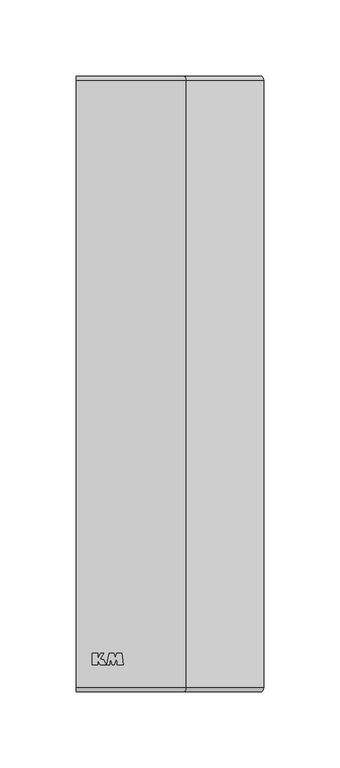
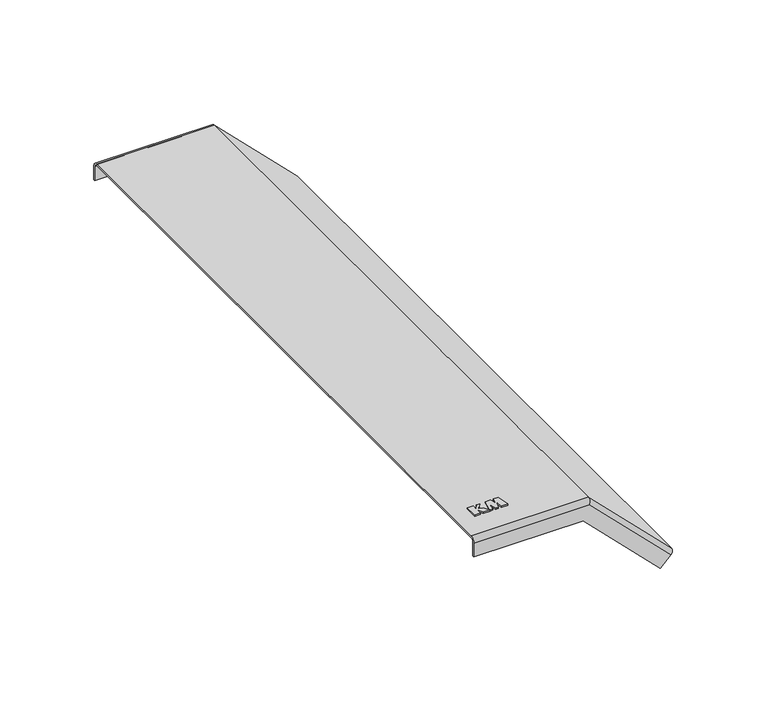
"""IFC4 building model written with IfcOpenShell, lengths in millimetres: cable carrier fitting geometry, КМ Профиль Крышка внешнего вертикального угла KVL45 : Крышка вертикального внешнего угла 45°."""

from ifc_helpers import new_model, si_unit, frame, origin, place, context, project, spatial, polyline, circle_curve, ellipse_curve, outline, extrude, source, transform, mapped, element, save
from ifc_brep_helpers import plane_surface, cylinder_surface, revolved_surface, advanced_brep


def cable_carrier_fitting_b93f2783(model_context):
    return source(origin(), model_context, "Body", "SolidModel", [
        extrude(outline(polyline([(10.7611219, -176.986157), (14.2683808, -176.986157), (14.2683808, -180.564509), (16.1710243, -176.986157), (18.296989, -176.986157), (15.8305045, -180.5086619), (18.0722556, -181.194034), (19.9395647, -184.737421), (16.0411533, -184.737421), (14.3369488, -181.5720802), (14.3369488, -184.737421), (10.7611219, -184.737421), (10.7611219, -176.986157)])), frame((0.0, 0.0, 3.0), z_axis=(0.0, 0.0, 1.0), x_axis=(1.0, 0.0, 0.0)), (0.0, 0.0, 1.0), 0.8),
        extrude(outline(polyline([(22.0037241, -184.737421), (20.1056605, -184.737421), (21.9259411, -176.9647569), (24.9566696, -176.9647569), (25.7231703, -180.0390232), (26.7444777, -176.9623682), (29.9384326, -176.9623682), (31.1299301, -184.7429915), (27.2274895, -184.7429915), (26.7499968, -180.0541919), (25.2699283, -184.7434681), (23.7954176, -184.7434681), (22.3873988, -180.0696135), (22.0037241, -184.737421)])), frame((0.0, 0.0, 3.0), z_axis=(0.0, 0.0, 1.0), x_axis=(1.0, 0.0, 0.0)), (0.0, 0.0, 1.0), 0.8),
        advanced_brep(
        [(0.0, -199.5, 3.0), (0.0, 199.5, 3.0), (0.0, 202.5, 0.0), (0.0, 202.5, -9.0), (0.0, 201.5, -9.0), (0.0, 201.5, 0.0), (0.0, 199.5, 2.0), (0.0, -199.5, 2.0), (0.0, -201.5, 0.0), (0.0, -201.5, -9.0), (0.0, -202.5, -9.0), (0.0, -202.5, 0.0), (72.2426407, -199.5, 3.0), (72.2426407, 199.5, 3.0), (71.0, 202.5, 0.0), (121.2045815, 202.5, -50.2045815), (114.8406204, 202.5, -56.5685425), (67.2720779, 202.5, -9.0), (67.2720779, 201.5, -9.0), (114.8406204, 201.5, -56.5685425), (121.2045815, 201.5, -50.2045815), (71.0, 201.5, 0.0), (71.8284271, 199.5, 2.0), (71.8284271, -199.5, 2.0), (71.0, -201.5, 0.0), (121.2045815, -201.5, -50.2045815), (114.8406204, -201.5, -56.5685425), (67.2720779, -201.5, -9.0), (67.2720779, -202.5, -9.0), (114.8406204, -202.5, -56.5685425), (121.2045815, -202.5, -50.2045815), (71.0, -202.5, 0.0), (123.3259018, -199.5, -48.0832611), (122.618795, -199.5, -48.7903679), (122.618795, 199.5, -48.7903679), (123.3259018, 199.5, -48.0832611)],
        [
            (0, 1),
            (1, 2, circle_curve(frame((0.0, 199.5, 0.0), z_axis=(-1.0, 0.0, 0.0), x_axis=(0.0, 0.0, 1.0)), 3.0)),
            (2, 3),
            (3, 4),
            (4, 5),
            (5, 6, circle_curve(frame((0.0, 199.5, 0.0), z_axis=(1.0, 0.0, 0.0), x_axis=(0.0, 0.0, 1.0)), 2.0)),
            (6, 7),
            (7, 8, circle_curve(frame((0.0, -199.5, 0.0), z_axis=(1.0, 0.0, 0.0), x_axis=(0.0, 0.0, 1.0)), 2.0)),
            (8, 9),
            (9, 10),
            (10, 11),
            (11, 0, circle_curve(frame((0.0, -199.5, 0.0), z_axis=(-1.0, 0.0, 0.0), x_axis=(0.0, 0.0, 1.0)), 3.0)),
            (0, 12),
            (12, 13),
            (13, 1),
            (13, 14, ellipse_curve(frame((71.0, 199.5, 0.0), z_axis=(-0.9238795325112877, 0.0, 0.38268343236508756), x_axis=(-0.38268343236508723, 0.0, -0.923879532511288)), 3.2471766, 3.0)),
            (14, 2),
            (14, 15),
            (15, 16),
            (16, 17),
            (17, 3),
            (17, 18),
            (18, 4),
            (18, 19),
            (19, 20),
            (20, 21),
            (21, 5),
            (21, 22, ellipse_curve(frame((71.0, 199.5, 0.0), z_axis=(0.9238795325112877, 0.0, -0.38268343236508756), x_axis=(0.38268343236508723, 0.0, 0.923879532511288)), 2.1647844, 2.0)),
            (22, 6),
            (22, 23),
            (23, 7),
            (23, 24, ellipse_curve(frame((71.0, -199.5, 0.0), z_axis=(0.9238795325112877, 0.0, -0.38268343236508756), x_axis=(0.38268343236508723, 0.0, 0.923879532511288)), 2.1647844, 2.0)),
            (24, 8),
            (24, 25),
            (25, 26),
            (26, 27),
            (27, 9),
            (27, 28),
            (28, 10),
            (28, 29),
            (29, 30),
            (30, 31),
            (31, 11),
            (31, 12, ellipse_curve(frame((71.0, -199.5, 0.0), z_axis=(-0.9238795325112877, 0.0, 0.38268343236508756), x_axis=(-0.38268343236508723, 0.0, -0.923879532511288)), 3.2471766, 3.0)),
            (32, 30, circle_curve(frame((121.2045815, -199.5, -50.2045815), z_axis=(0.7071067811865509, 0.0, -0.7071067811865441), x_axis=(0.7071067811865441, 0.0, 0.7071067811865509)), 3.0)),
            (29, 26),
            (25, 33, circle_curve(frame((121.2045815, -199.5, -50.2045815), z_axis=(-0.7071067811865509, 0.0, 0.7071067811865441), x_axis=(0.7071067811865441, 0.0, 0.7071067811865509)), 2.0)),
            (33, 34),
            (34, 20, circle_curve(frame((121.2045815, 199.5, -50.2045815), z_axis=(-0.7071067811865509, 0.0, 0.7071067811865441), x_axis=(0.7071067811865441, 0.0, 0.7071067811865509)), 2.0)),
            (19, 16),
            (15, 35, circle_curve(frame((121.2045815, 199.5, -50.2045815), z_axis=(0.7071067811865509, 0.0, -0.7071067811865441), x_axis=(0.7071067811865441, 0.0, 0.7071067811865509)), 3.0)),
            (35, 32),
            (12, 32),
            (35, 13),
            (34, 22),
            (33, 23),
        ],
        [
            plane_surface(frame((0.0, 0.0, 0.0), z_axis=(-1.0, 0.0, 0.0), x_axis=(0.0, -1.0, 0.0))),
            plane_surface(frame((0.0, -199.5, 3.0), z_axis=(0.0, 0.0, 1.0), x_axis=(1.0, 0.0, 0.0))),
            cylinder_surface(frame((0.0, 199.5, 0.0), z_axis=(-1.0, 0.0, 0.0), x_axis=(0.0, 0.0, 1.0)), 3.0),
            plane_surface(frame((0.0, 202.5, 0.0), z_axis=(0.0, 1.0, 0.0), x_axis=(1.0, 0.0, 0.0))),
            plane_surface(frame((0.0, 202.5, -9.0), z_axis=(0.0, 0.0, -1.0), x_axis=(1.0, 0.0, 0.0))),
            plane_surface(frame((0.0, 201.5, -9.0), z_axis=(0.0, -1.0, 0.0), x_axis=(1.0, 0.0, 0.0))),
            revolved_surface(polyline([(71.82842712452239, 199.5, 2.0), (0.0, 199.5, 2.0)]), (0.0, 199.5, 0.0), (1.0, 0.0, 0.0)),
            plane_surface(frame((0.0, 199.5, 2.0), z_axis=(0.0, 0.0, -1.0), x_axis=(1.0, 0.0, 0.0))),
            revolved_surface(polyline([(71.82842712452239, -199.5, 2.0), (0.0, -199.5, 2.0)]), (0.0, -199.5, 0.0), (1.0, 0.0, 0.0)),
            plane_surface(frame((0.0, -201.5, 0.0), z_axis=(0.0, 1.0, 0.0), x_axis=(1.0, 0.0, 0.0))),
            plane_surface(frame((0.0, -201.5, -9.0), z_axis=(0.0, 0.0, -1.0), x_axis=(1.0, 0.0, 0.0))),
            plane_surface(frame((0.0, -202.5, -9.0), z_axis=(0.0, -1.0, 0.0), x_axis=(1.0, 0.0, 0.0))),
            cylinder_surface(frame((0.0, -199.5, 0.0), z_axis=(-1.0, 0.0, 0.0), x_axis=(0.0, 0.0, 1.0)), 3.0),
            plane_surface(frame((121.2045815, 0.0, -50.2045815), z_axis=(0.7071067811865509, 0.0, -0.7071067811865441), x_axis=(0.0, -1.0, 0.0))),
            plane_surface(frame((72.2426407, -199.5, 3.0), z_axis=(0.7071067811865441, 0.0, 0.707106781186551), x_axis=(0.707106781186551, 0.0, -0.7071067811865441))),
            cylinder_surface(frame((71.0, 199.5, 0.0), z_axis=(-0.7071067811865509, 0.0, 0.7071067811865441), x_axis=(0.7071067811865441, 0.0, 0.7071067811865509)), 3.0),
            plane_surface(frame((67.2720779, 202.5, -9.0), z_axis=(-0.7071067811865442, 0.0, -0.7071067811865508), x_axis=(0.7071067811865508, 0.0, -0.7071067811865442))),
            revolved_surface(polyline([(122.61879506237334, 199.5, -48.79036793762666), (71.82842711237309, 199.5, 2.0000000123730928)]), (71.0, 199.5, 0.0), (0.7071067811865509, 0.0, -0.7071067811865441)),
            plane_surface(frame((71.8284271, 199.5, 2.0), z_axis=(-0.7071067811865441, 0.0, -0.7071067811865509), x_axis=(0.7071067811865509, 0.0, -0.7071067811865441))),
            revolved_surface(polyline([(122.61879506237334, -199.5, -48.79036793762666), (71.82842711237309, -199.5, 2.0000000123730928)]), (71.0, -199.5, 0.0), (0.7071067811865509, 0.0, -0.7071067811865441)),
            plane_surface(frame((67.2720779, -201.5, -9.0), z_axis=(-0.7071067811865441, 0.0, -0.7071067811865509), x_axis=(0.7071067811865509, 0.0, -0.7071067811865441))),
            cylinder_surface(frame((71.0, -199.5, 0.0), z_axis=(-0.7071067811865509, 0.0, 0.7071067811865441), x_axis=(0.7071067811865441, 0.0, 0.7071067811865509)), 3.0),
        ],
        [
            (0, [[1, 2, 3, 4, 5, 6, 7, 8, 9, 10, 11, 12]]),
            (1, [[-1, 13, 14, 15]]),
            (2, [[-2, -15, 16, 17]]),
            (3, [[-3, -17, 18, 19, 20, 21]]),
            (4, [[-4, -21, 22, 23]]),
            (5, [[-5, -23, 24, 25, 26, 27]]),
            (6, [[-6, -27, 28, 29]]),
            (7, [[-7, -29, 30, 31]]),
            (8, [[-8, -31, 32, 33]]),
            (9, [[-9, -33, 34, 35, 36, 37]]),
            (10, [[-10, -37, 38, 39]]),
            (11, [[-11, -39, 40, 41, 42, 43]]),
            (12, [[-12, -43, 44, -13]]),
            (13, [[45, -41, 46, -35, 47, 48, 49, -25, 50, -19, 51, 52]]),
            (14, [[-14, 53, -52, 54]]),
            (15, [[-16, -54, -51, -18]]),
            (16, [[-22, -20, -50, -24]]),
            (17, [[-28, -26, -49, 55]]),
            (18, [[-30, -55, -48, 56]]),
            (19, [[-32, -56, -47, -34]]),
            (20, [[-38, -36, -46, -40]]),
            (21, [[-44, -42, -45, -53]]),
        ],
    ),
    ])


if __name__ == "__main__":
    model = new_model("IFC4")
    model_context = context("Model", 3, world=origin())
    ifc_project = project(units=[si_unit("LENGTHUNIT", "METRE", prefix="MILLI")], contexts=[model_context])
    site = spatial("IfcSite", under=ifc_project)
    building = spatial("IfcBuilding", under=site)
    placement = place(None, origin())
    cable_carrier_fitting_shape = cable_carrier_fitting_b93f2783(model_context)
    element("IfcCableCarrierFitting", 1, ObjectType="КМ Профиль Крышка внешнего вертикального угла KVL45 : Крышка вертикального внешнего угла 45°", at=placement, inside=building, context=model_context, shape_type="MappedRepresentation", body=[
        mapped(cable_carrier_fitting_shape, transform((0.0, 0.0, 0.0), x_axis=(1.0, 0.0, 0.0), y_axis=(0.0, 1.0, 0.0), z_axis=(0.0, 0.0, 1.0))),
    ])
    save(model, "model.ifc")
